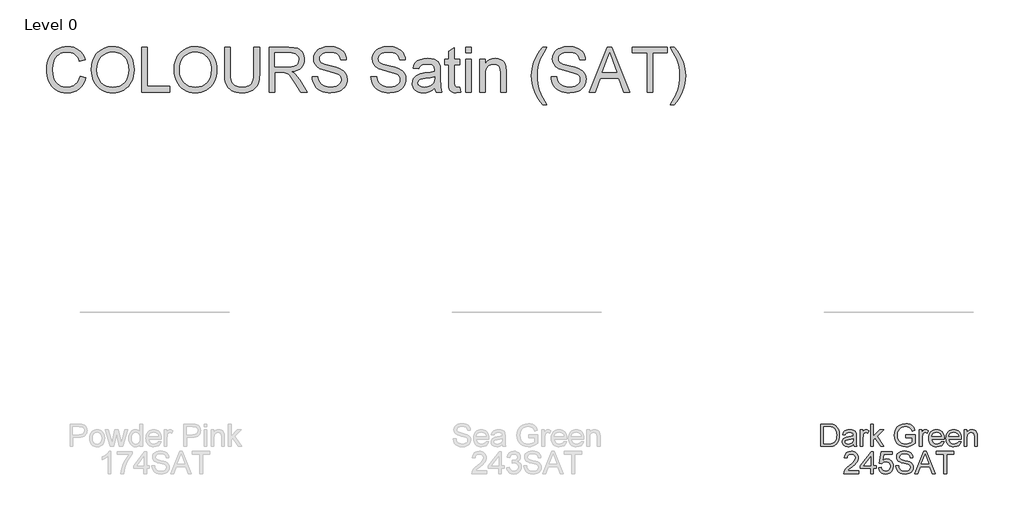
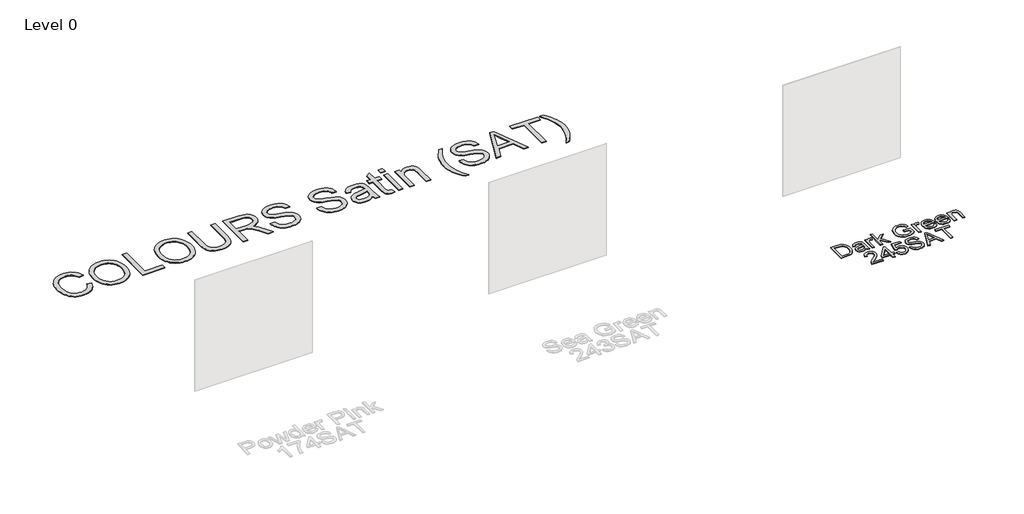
# One storey, part 32 of 37: 2 proxies.
"""IFC4 building model written with IfcOpenShell, lengths in millimetres."""

from ifc_helpers import new_model, si_unit, origin, origin_with_axes, place, context, project, spatial, polyline, outline, extrude, element, save

model = new_model("IFC4")

# Units and contexts
model_context = context("Model", 3, world=origin())
ifc_project = project(units=[si_unit("LENGTHUNIT", "METRE", prefix="MILLI")], contexts=[model_context])

# Site, building, storey
site = spatial("IfcSite", under=ifc_project)
building = spatial("IfcBuilding", under=site)
storey = spatial("IfcBuildingStorey", under=building, Name="Level 0", Elevation=0.0)

# Proxies
placement = place(None, origin())
element("IfcBuildingElementProxy", 1, Name="300mm Arial", ObjectType="300mm Arial", at=placement, inside=storey, context=model_context, shape_type="SweptSolid", body=[
    extrude(outline(polyline([(27501.6140214, -7002.860494), (27501.6140214, -6701.4915635), (27605.5774733, -6701.4915635), (27659.361821, -6705.8325711), (27683.3845152, -6714.2018865), (27703.6548132, -6727.390456), (27724.4953282, -6750.3462925), (27739.3393667, -6778.8939353), (27748.2237169, -6812.4815615), (27751.185167, -6850.557348), (27749.1802101, -6882.9033724), (27743.1653395, -6911.3682418), (27734.0050778, -6935.6024682), (27722.5639477, -6955.2565638), (27709.3937723, -6970.771987), (27695.0463745, -6982.590196), (27678.5744582, -6991.3549846), (27659.0307272, -6997.710146), (27610.5806684, -7002.860494), (27501.6140214, -7002.860494)]), holes=[polyline([(27539.2851377, -6965.1893777), (27605.9453553, -6965.1893777), (27633.5181108, -6963.8282143), (27654.4322022, -6959.7447241), (27670.2143398, -6953.1780305), (27682.3912339, -6944.3672567), (27695.4786358, -6928.0608873), (27705.3102822, -6906.9536578), (27711.4631085, -6880.9535978), (27713.5140507, -6849.9687368), (27709.4949399, -6808.9131061), (27697.4376075, -6778.5996297), (27679.6229218, -6757.7775088), (27658.3317514, -6745.1959446), (27636.6635019, -6740.670996), (27604.9152857, -6739.1626798), (27539.2851377, -6739.1626798), (27539.2851377, -6965.1893777)])]), origin_with_axes(), (0.0, 0.0, 1.0), 10.0),
    extrude(outline(polyline([(27939.5407485, -6974.6071568), (27921.5421219, -6990.0398064), (27903.0100664, -7000.1381672), (27883.5215177, -7005.7115794), (27862.6534115, -7007.5693835), (27831.1719098, -7003.0996173), (27807.9493588, -6989.6903186), (27793.6295522, -6969.3280501), (27788.8562833, -6943.9993748), (27790.658905, -6928.3827841), (27796.0667704, -6914.2009331), (27804.4084946, -6902.0608273), (27815.0126931, -6892.5694718), (27841.3898322, -6880.2086368), (27873.9841769, -6874.5432541), (27912.5014218, -6868.5835657), (27939.3200193, -6861.5938078), (27939.5407485, -6853.2060983), (27936.9471804, -6836.3938912), (27929.1664762, -6825.3942195), (27911.7656579, -6817.2272392), (27887.5222344, -6814.5049125), (27865.0814327, -6816.3167313), (27849.4096597, -6821.7521878), (27838.7226877, -6831.8045633), (27831.2362891, -6847.4671392), (27793.5651728, -6842.7582497), (27800.1042753, -6822.156858), (27809.8623452, -6805.9700502), (27823.7498905, -6793.590821), (27842.6774192, -6784.4121652), (27865.8263937, -6778.7283884), (27892.3782767, -6776.8337961), (27917.8449078, -6778.5076592), (27938.0324323, -6783.5292485), (27953.2535499, -6791.0800264), (27963.8209602, -6800.3414556), (27970.8291122, -6811.7917827), (27975.3724548, -6825.9092543), (27977.2118648, -6858.8714811), (27977.2118648, -6905.7396473), (27979.1248512, -6971.1858542), (27986.6296439, -7002.860494), (27948.9585276, -7002.860494), (27939.5407485, -6974.6071568)]), holes=[polyline([(27939.5407485, -6899.2649241), (27878.7666429, -6910.8164188), (27846.3562391, -6916.9232599), (27831.6777475, -6926.8560738), (27826.5273996, -6941.3506244), (27829.3324998, -6952.5526311), (27837.7478004, -6961.7312869), (27851.5893605, -6967.8565221), (27870.673239, -6969.8982672), (27890.9067487, -6967.64499), (27908.7858137, -6960.8851583), (27923.2803643, -6950.9247533), (27933.360331, -6939.069756), (27937.8300972, -6926.8560738), (27939.3200193, -6909.933502), (27939.5407485, -6899.2649241)])]), origin_with_axes(), (0.0, 0.0, 1.0), 10.0),
    extrude(outline(polyline([(28029.0096497, -7002.860494), (28029.0096497, -6781.5426857), (28061.9718765, -6781.5426857), (28061.9718765, -6814.2841833), (28074.1487705, -6795.3014723), (28085.3691714, -6784.1178596), (28096.6263604, -6778.654812), (28108.9136191, -6776.8337961), (28127.6756008, -6779.7400639), (28146.7318882, -6788.4588672), (28134.1503239, -6822.2304343), (28120.9065721, -6816.4362929), (28107.6628203, -6814.5049125), (28096.4148283, -6816.3627165), (28086.3624528, -6821.9361288), (28078.2414577, -6830.8020848), (28072.7876071, -6842.5375205), (28068.2074763, -6863.5803706), (28066.680766, -6886.5362071), (28066.680766, -7002.860494), (28029.0096497, -7002.860494)])), origin_with_axes(), (0.0, 0.0, 1.0), 10.0),
    extrude(outline(polyline([(28170.2763359, -7002.860494), (28170.2763359, -6701.4915635), (28207.9474522, -6701.4915635), (28207.9474522, -6863.4332178), (28292.4131583, -6781.5426857), (28344.5052488, -6781.5426857), (28259.0094731, -6864.4632874), (28349.2141383, -7002.860494), (28305.2154517, -7002.860494), (28232.0069347, -6890.6564855), (28207.9474522, -6913.9802039), (28207.9474522, -7002.860494), (28170.2763359, -7002.860494)])), origin_with_axes(), (0.0, 0.0, 1.0), 10.0),
    extrude(outline(polyline([(28645.8741792, -6885.1382555), (28645.8741792, -6847.4671392), (28768.3053072, -6847.4671392), (28768.3053072, -6960.1126061), (28738.5528509, -6980.8059684), (28707.8622954, -6995.6500069), (28676.3072173, -7004.5895394), (28643.9611929, -7007.5693835), (28601.7007487, -7002.8329028), (28563.5054005, -6988.6234608), (28531.7755784, -6965.437698), (28508.9117124, -6933.7722553), (28495.0885465, -6895.7884393), (28490.4808245, -6853.6475567), (28495.0701524, -6811.2031715), (28508.838136, -6771.7202364), (28531.2145584, -6738.6016598), (28561.6292023, -6715.2503502), (28598.6749192, -6701.399593), (28640.9445605, -6696.782674), (28671.9754068, -6699.4590155), (28699.8792561, -6707.4880401), (28723.3777186, -6720.2903335), (28741.1924042, -6737.2864817), (28754.3717767, -6759.295022), (28763.9642997, -6787.134492), (28729.2362393, -6796.9201531), (28721.4831263, -6777.0637224), (28712.0561502, -6762.0817281), (28699.5849505, -6750.7877509), (28682.6991669, -6741.9953712), (28662.5668248, -6736.3391855), (28640.3559493, -6734.4537903), (28614.3558893, -6736.4863383), (28592.1266197, -6742.5839824), (28573.7509141, -6751.9833674), (28559.3115458, -6763.9211381), (28539.9241646, -6792.9470275), (28531.0949967, -6821.3843058), (28528.1519408, -6852.1024524), (28531.692805, -6888.1272967), (28542.3153976, -6917.7693885), (28559.6978219, -6940.8171955), (28583.518181, -6957.0591856), (28611.3944392, -6966.6884968), (28640.9445605, -6969.8982672), (28667.036591, -6967.4794431), (28692.484828, -6960.2229707), (28714.5853389, -6950.2257775), (28730.6341909, -6939.5847908), (28730.6341909, -6885.1382555), (28645.8741792, -6885.1382555)])), origin_with_axes(), (0.0, 0.0, 1.0), 10.0),
    extrude(outline(polyline([(28824.8119817, -7002.860494), (28824.8119817, -6781.5426857), (28857.7742084, -6781.5426857), (28857.7742084, -6814.2841833), (28869.9511025, -6795.3014723), (28881.1715033, -6784.1178596), (28892.4286924, -6778.654812), (28904.715951, -6776.8337961), (28923.4779328, -6779.7400639), (28942.5342201, -6788.4588672), (28929.9526559, -6822.2304343), (28916.7089041, -6816.4362929), (28903.4651522, -6814.5049125), (28892.2171602, -6816.3627165), (28882.1647847, -6821.9361288), (28874.0437897, -6830.8020848), (28868.5899391, -6842.5375205), (28864.0098083, -6863.5803706), (28862.483098, -6886.5362071), (28862.483098, -7002.860494), (28824.8119817, -7002.860494)])), origin_with_axes(), (0.0, 0.0, 1.0), 10.0),
    extrude(outline(polyline([(29121.0305642, -6936.9360404), (29157.9659165, -6941.64493), (29144.6577853, -6969.4752029), (29123.4217972, -6990.2789297), (29094.7361986, -7003.2467701), (29059.0792362, -7007.5693835), (29035.7049339, -7005.7046817), (29014.8782145, -7000.1105761), (28996.5990779, -6990.7870668), (28980.867524, -6977.7341537), (28968.2169819, -6961.3151204), (28959.1808804, -6941.8932503), (28953.7592195, -6919.4685435), (28951.9519992, -6894.0409998), (28953.7776136, -6867.7512327), (28959.2544568, -6844.5792656), (28968.3825288, -6824.5250983), (28981.1618296, -6807.5887309), (28996.8519967, -6794.133447), (29014.7126676, -6784.5225298), (29034.7438422, -6778.7559796), (29056.9455206, -6776.8337961), (29078.4321284, -6778.751381), (29097.8631956, -6784.5041357), (29115.238722, -6794.0920602), (29130.5587079, -6807.5151545), (29143.0643964, -6824.4147337), (29151.9970311, -6844.4321128), (29157.356612, -6867.5672917), (29159.1431389, -6893.8202706), (29158.9224097, -6903.9738137), (28989.6231155, -6903.9738137), (28996.1438239, -6932.1719686), (29011.291365, -6952.902119), (29033.1527526, -6965.6492302), (29059.8150002, -6969.8982672), (29079.8645689, -6967.9300985), (29096.7503525, -6962.0255925), (29110.4723509, -6951.8168672), (29121.0305642, -6936.9360404)]), holes=[polyline([(28989.6231155, -6866.3026974), (29121.4720226, -6866.3026974), (29116.376857, -6846.4002814), (29106.3888608, -6832.1632482), (29084.4263057, -6818.9194964), (29056.7983678, -6814.5049125), (29031.4053131, -6818.0273826), (29010.4084482, -6828.5947929), (28995.8127301, -6845.0667092), (28989.6231155, -6866.3026974)])]), origin_with_axes(), (0.0, 0.0, 1.0), 10.0),
    extrude(outline(polyline([(29351.7661516, -6936.9360404), (29388.7015039, -6941.64493), (29375.3933727, -6969.4752029), (29354.1573845, -6990.2789297), (29325.471786, -7003.2467701), (29289.8148236, -7007.5693835), (29266.4405213, -7005.7046817), (29245.6138019, -7000.1105761), (29227.3346652, -6990.7870668), (29211.6031114, -6977.7341537), (29198.9525693, -6961.3151204), (29189.9164678, -6941.8932503), (29184.4948069, -6919.4685435), (29182.6875866, -6894.0409998), (29184.513201, -6867.7512327), (29189.9900442, -6844.5792656), (29199.1181162, -6824.5250983), (29211.897417, -6807.5887309), (29227.5875841, -6794.133447), (29245.448255, -6784.5225298), (29265.4794296, -6778.7559796), (29287.681108, -6776.8337961), (29309.1677158, -6778.751381), (29328.5987829, -6784.5041357), (29345.9743094, -6794.0920602), (29361.2942952, -6807.5151545), (29373.7999838, -6824.4147337), (29382.7326185, -6844.4321128), (29388.0921993, -6867.5672917), (29389.8787263, -6893.8202706), (29389.6579971, -6903.9738137), (29220.3587029, -6903.9738137), (29226.8794113, -6932.1719686), (29242.0269524, -6952.902119), (29263.88834, -6965.6492302), (29290.5505876, -6969.8982672), (29310.6001563, -6967.9300985), (29327.4859399, -6962.0255925), (29341.2079383, -6951.8168672), (29351.7661516, -6936.9360404)]), holes=[polyline([(29220.3587029, -6866.3026974), (29352.20761, -6866.3026974), (29347.1124443, -6846.4002814), (29337.1244482, -6832.1632482), (29315.1618931, -6818.9194964), (29287.5339552, -6814.5049125), (29262.1409005, -6818.0273826), (29241.1440356, -6828.5947929), (29226.5483175, -6845.0667092), (29220.3587029, -6866.3026974)])]), origin_with_axes(), (0.0, 0.0, 1.0), 10.0),
    extrude(outline(polyline([(29427.5498426, -7002.860494), (29427.5498426, -6781.5426857), (29465.2209589, -6781.5426857), (29465.2209589, -6812.4447733), (29478.3083609, -6796.8649708), (29494.0261191, -6785.7365404), (29512.3742336, -6779.0594822), (29533.3527044, -6776.8337961), (29551.9215481, -6778.6272209), (29568.9268933, -6784.0074951), (29583.1087442, -6792.303234), (29593.207105, -6802.8430532), (29604.5010823, -6830.5445674), (29606.487645, -6866.964885), (29606.487645, -7002.860494), (29568.8165287, -7002.860494), (29568.8165287, -6872.0416565), (29564.4755212, -6838.7115477), (29558.4698476, -6828.7879309), (29549.134842, -6821.0900002), (29537.1694801, -6816.1511844), (29523.2727377, -6814.5049125), (29501.2090151, -6818.2021265), (29482.4010481, -6829.2937687), (29474.884759, -6838.3482643), (29469.5159812, -6850.7228949), (29465.2209589, -6885.4325611), (29465.2209589, -7002.860494), (29427.5498426, -7002.860494)])), origin_with_axes(), (0.0, 0.0, 1.0), 10.0),
    extrude(outline(polyline([(28010.1740916, -7331.1138312), (28010.1740916, -7368.7849475), (27812.400731, -7368.7849475), (27816.4474329, -7342.8124787), (27825.7364533, -7322.5145896), (27839.329693, -7302.8237058), (27858.9929856, -7282.213117), (27886.4921648, -7259.156113), (27927.1431253, -7223.0484951), (27951.5337015, -7196.3954446), (27963.7289897, -7174.7639833), (27967.7940857, -7153.7211331), (27963.9589159, -7134.8579838), (27952.4534065, -7119.1770138), (27934.7674796, -7108.6096035), (27912.3910572, -7105.0871334), (27888.8925948, -7108.52683), (27870.6364508, -7118.84592), (27858.8550299, -7135.2350629), (27854.7807368, -7156.8849183), (27817.1096205, -7152.1760288), (27826.242291, -7115.7373171), (27834.7886496, -7101.2013798), (27845.9883571, -7089.1210548), (27859.5838961, -7079.6251008), (27875.3177492, -7072.8422765), (27913.2003976, -7067.4160171), (27933.3902214, -7068.9243332), (27951.3589576, -7073.4492818), (27967.1066062, -7080.9908627), (27980.6331673, -7091.549076), (27991.4971825, -7104.3421723), (27999.2571934, -7118.5884026), (28003.9131999, -7134.2877667), (28005.465202, -7151.4402648), (28003.7913389, -7169.4572855), (27998.7697497, -7187.1616065), (27989.8578084, -7205.1694302), (27976.512889, -7224.0969588), (27955.2401126, -7246.6941104), (27922.5446003, -7275.7108027), (27879.2081013, -7311.9471793), (27862.2119531, -7331.1138312), (28010.1740916, -7331.1138312)])), origin_with_axes(), (0.0, 0.0, 1.0), 10.0),
    extrude(outline(polyline([(28170.2763359, -7368.7849475), (28170.2763359, -7298.1516044), (28033.7185393, -7298.1516044), (28033.7185393, -7260.4804881), (28179.6941149, -7072.1249066), (28207.9474522, -7072.1249066), (28207.9474522, -7260.4804881), (28245.6185685, -7260.4804881), (28245.6185685, -7298.1516044), (28207.9474522, -7298.1516044), (28207.9474522, -7368.7849475), (28170.2763359, -7368.7849475)]), holes=[polyline([(28170.2763359, -7260.4804881), (28170.2763359, -7144.0826249), (28080.0716706, -7260.4804881), (28170.2763359, -7260.4804881)])]), origin_with_axes(), (0.0, 0.0, 1.0), 10.0),
    extrude(outline(polyline([(28278.5807952, -7288.7338254), (28316.2519115, -7284.0249358), (28323.1680931, -7306.6404815), (28335.2346225, -7322.8364863), (28352.3963176, -7332.5761621), (28374.597996, -7335.8227207), (28401.6005344, -7331.3069693), (28421.8340442, -7317.7597148), (28434.4707907, -7296.7444558), (28438.6830395, -7269.8246908), (28434.7375051, -7244.4776213), (28422.900902, -7225.0902402), (28403.0812595, -7212.7845875), (28375.1866072, -7208.6827032), (28356.9120691, -7210.3197781), (28342.1140158, -7215.2310027), (28320.9608011, -7232.2271509), (28283.2896848, -7227.5182614), (28316.2519115, -7072.1249066), (28462.2274872, -7072.1249066), (28462.2274872, -7109.7960229), (28346.7125407, -7109.7960229), (28330.5993094, -7192.790201), (28357.5098773, -7176.4562404), (28385.7080322, -7171.0115869), (28404.0538475, -7172.6992456), (28420.9051421, -7177.7622215), (28436.2619162, -7186.2005148), (28450.1241696, -7198.0141254), (28461.5997886, -7212.4810848), (28469.7966593, -7228.8794248), (28474.7147817, -7247.2091452), (28476.3541558, -7267.470246), (28470.4496498, -7305.1413624), (28463.0690173, -7321.9351754), (28452.7361318, -7337.3678251), (28437.0827529, -7353.1729553), (28418.8174118, -7364.4623341), (28397.9401086, -7371.2359613), (28374.4508432, -7373.4938371), (28337.4511115, -7367.6904986), (28321.7724407, -7360.4363255), (28307.9745667, -7350.2804832), (28296.4943491, -7337.7288093), (28287.7686481, -7323.2871418), (28278.5807952, -7288.7338254)])), origin_with_axes(), (0.0, 0.0, 1.0), 10.0),
    extrude(outline(polyline([(28509.3163826, -7265.1893777), (28546.9874989, -7265.1893777), (28551.3101124, -7286.0942721), (28559.1276048, -7302.8972822), (28571.3228929, -7316.2330045), (28588.7788936, -7326.7360355), (28610.1160493, -7333.5510494), (28633.9548026, -7335.8227207), (28654.9424704, -7334.1028724), (28673.3181761, -7328.9433274), (28688.2081998, -7320.7763471), (28698.7388219, -7310.0341929), (28705.0020129, -7297.700949), (28707.0897432, -7284.7606998), (28705.5262447, -7272.1515444), (28700.8357493, -7261.2530403), (28691.3076056, -7251.9548229), (28675.2311624, -7244.1465276), (28620.379957, -7229.7623415), (28584.3735067, -7220.2433949), (28561.3348967, -7211.1843008), (28542.582112, -7198.510766), (28529.292375, -7183.1516928), (28521.373715, -7165.4381747), (28518.7341617, -7145.7013056), (28521.9991144, -7123.637583), (28531.7939725, -7103.0637824), (28547.8612187, -7085.6261758), (28569.9433354, -7072.9710352), (28596.4492332, -7065.2731044), (28625.7878223, -7062.7071275), (28657.5728267, -7065.3926661), (28685.3847055, -7073.4492818), (28708.2301774, -7086.7114277), (28725.115961, -7105.013557), (28735.8029329, -7127.2152354), (28740.05197, -7152.1760288), (28702.3808537, -7152.1760288), (28695.4646722, -7129.6984389), (28681.043698, -7113.4748429), (28658.5109258, -7103.6523936), (28627.2593503, -7100.3782438), (28595.2720108, -7103.6156054), (28573.3278498, -7113.3276901), (28560.6359209, -7127.6199056), (28556.405278, -7144.5976597), (28559.4035163, -7159.0738162), (28568.398231, -7170.7172813), (28589.6618104, -7181.1283418), (28629.9081006, -7191.7601314), (28671.4419779, -7201.8584922), (28696.5683182, -7210.669266), (28718.0434296, -7224.3360821), (28733.0254239, -7241.2034716), (28741.8270006, -7261.0874934), (28744.7608595, -7283.8042066), (28741.3855422, -7307.0267576), (28731.2595903, -7328.869751), (28714.796871, -7347.668521), (28692.4112516, -7361.7584014), (28665.4914866, -7370.5599781), (28635.4263306, -7373.4938371), (28598.5185694, -7370.3300519), (28568.1407136, -7360.8386964), (28543.9432754, -7344.9829824), (28525.5767668, -7322.7261217), (28513.7861489, -7295.6132187), (28509.3163826, -7265.1893777)])), origin_with_axes(), (0.0, 0.0, 1.0), 10.0),
    extrude(outline(polyline([(28766.1715916, -7368.7849475), (28886.4690041, -7067.4160171), (28918.5483141, -7067.4160171), (29038.8457265, -7368.7849475), (28999.0408946, -7368.7849475), (28964.5335634, -7274.6071568), (28840.4101783, -7274.6071568), (28805.9764235, -7368.7849475), (28766.1715916, -7368.7849475)]), holes=[polyline([(28854.2425413, -7236.9360404), (28950.7747768, -7236.9360404), (28923.6250856, -7162.8446066), (28902.5086591, -7105.0871334), (28883.7466773, -7156.3698835), (28854.2425413, -7236.9360404)])]), origin_with_axes(), (0.0, 0.0, 1.0), 10.0),
    extrude(outline(polyline([(29154.4342494, -7368.7849475), (29154.4342494, -7105.0871334), (29055.5475691, -7105.0871334), (29055.5475691, -7067.4160171), (29290.992046, -7067.4160171), (29290.992046, -7105.0871334), (29192.1053657, -7105.0871334), (29192.1053657, -7368.7849475), (29154.4342494, -7368.7849475)])), origin_with_axes(), (0.0, 0.0, 1.0), 10.0),
])
element("IfcBuildingElementProxy", 2, Name="600mm Arial", ObjectType="600mm Arial", at=placement, inside=storey, context=model_context, shape_type="SweptSolid", body=[
    extrude(outline(polyline([(17546.3368732, -2025.6175733), (17621.6791058, -2045.0417427), (17606.770688, -2091.8961133), (17586.9142573, -2132.8367808), (17562.1098137, -2167.8637453), (17532.3573574, -2196.9770067), (17498.3282728, -2219.8638653), (17460.6939447, -2236.2116215), (17419.4543731, -2246.0202752), (17374.6095579, -2249.2898264), (17328.6656952, -2246.81582), (17287.2191899, -2239.3938007), (17250.270042, -2227.0237686), (17217.8182515, -2209.7057237), (17189.4177615, -2187.6971834), (17164.622515, -2161.255665), (17143.4325121, -2130.3811685), (17125.8477527, -2095.073694), (17112.0383823, -2056.8599518), (17102.1745463, -2017.266652), (17096.2562447, -1976.2937948), (17094.2834775, -1933.9413801), (17096.5137621, -1888.4987567), (17103.2046159, -1846.0543715), (17114.3560389, -1806.6082246), (17129.9680311, -1770.1603159), (17149.6911045, -1737.3130522), (17173.1757714, -1708.6688404), (17200.4220317, -1684.2276803), (17231.4298853, -1663.9895721), (17265.1462702, -1648.1200625), (17300.518124, -1636.7846985), (17337.5454468, -1629.9834802), (17376.2282386, -1627.7164074), (17419.3210158, -1630.6502663), (17458.8361406, -1639.451843), (17494.7736131, -1654.1211376), (17527.1334331, -1674.6581499), (17555.3821718, -1700.5202542), (17578.9864003, -1731.1648244), (17597.9461186, -1766.5918605), (17612.2613267, -1806.8013626), (17536.9190941, -1824.754004), (17525.0548998, -1795.1257078), (17510.7994725, -1769.810828), (17494.1528122, -1748.8093646), (17475.1149189, -1732.1213176), (17453.5754281, -1719.4063961), (17429.4239751, -1710.3243094), (17402.66056, -1704.8750573), (17373.2851827, -1703.05864), (17339.4860244, -1705.0727939), (17308.5747397, -1711.1152557), (17280.5513287, -1721.1860253), (17255.4157914, -1735.2851027), (17233.485426, -1752.7778916), (17215.0775306, -1773.0297954), (17200.1921054, -1796.0408142), (17188.8291503, -1821.810948), (17174.4265702, -1876.9564591), (17169.6257101, -1933.7942273), (17175.309487, -2003.3975008), (17182.414208, -2034.6674704), (17192.3608174, -2063.5829952), (17205.3102637, -2089.5692597), (17221.4234951, -2112.0514481), (17240.7005116, -2131.0295605), (17263.1413133, -2146.503597), (17287.6560498, -2158.5103456), (17313.1548706, -2167.0865946), (17339.6377757, -2172.232344), (17367.1047652, -2173.9475938), (17399.8600583, -2171.6115431), (17429.9941922, -2164.6033911), (17457.5071669, -2152.9231378), (17482.3989824, -2136.5707831), (17504.0810275, -2115.6199035), (17521.964691, -2090.1440753), (17536.0499729, -2060.1432986), (17546.3368732, -2025.6175733)])), origin_with_axes(), (0.0, 0.0, 1.0), 10.0),
    extrude(outline(polyline([(17697.0213384, -1946.449368), (17702.0429277, -1875.7516456), (17717.1076954, -1813.1657211), (17742.2156415, -1758.6915947), (17758.5358065, -1734.4964557), (17777.3667662, -1712.3292662), (17820.4549449, -1675.3111405), (17869.3740532, -1648.8696221), (17924.1240911, -1633.004711), (17984.7050587, -1627.7164074), (18025.2548516, -1630.1996108), (18063.7628994, -1637.6492212), (18100.2292022, -1650.0652386), (18134.6537599, -1667.4476628), (18166.0708823, -1689.2722622), (18193.5148791, -1715.0148048), (18216.9857504, -1744.6752907), (18236.4834962, -1778.2537198), (18251.8057813, -1814.986737), (18262.7502706, -1854.1109872), (18269.3169642, -1895.6264703), (18271.5058621, -1939.5331865), (18269.2020011, -1984.0193167), (18262.2904181, -2026.0958199), (18250.7711131, -2065.7626961), (18234.6440862, -2103.0199451), (18214.2910148, -2136.8834828), (18190.0935766, -2166.3692247), (18162.0517715, -2191.4771709), (18130.1655995, -2212.2073213), (18095.6904581, -2228.4309173), (18059.8817444, -2240.0192001), (18022.7394584, -2246.9721698), (17984.2636003, -2249.2898264), (17943.0056345, -2246.728448), (17903.9917489, -2239.0443128), (17867.2219435, -2226.2374209), (17832.6962182, -2208.3077721), (17801.3158841, -2185.9497439), (17773.9822518, -2159.8577134), (17750.6953215, -2130.0316806), (17731.4550932, -2096.4716456), (17716.3903255, -2060.5249762), (17705.6297771, -2023.5390401), (17699.1734481, -1985.5138373), (17697.0213384, -1946.449368)]), holes=[polyline([(17772.363571, -1947.185132), (17776.129763, -1997.1343099), (17787.4283387, -2041.4732873), (17806.2592984, -2080.2020644), (17832.6226418, -2113.320641), (17864.6697622, -2139.8449328), (17900.5520523, -2158.7908556), (17940.2695122, -2170.1584092), (17983.8221419, -2173.9475938), (18028.1197326, -2170.121621), (18068.3062421, -2158.6437028), (18104.3816702, -2139.513839), (18136.3460171, -2112.7320298), (18162.5162225, -2078.9144774), (18181.2092264, -2038.6773842), (18192.4250287, -1992.0207501), (18196.1636295, -1938.9445753), (18194.5633428, -1904.4648353), (18189.7624828, -1872.2475695), (18181.7610494, -1842.2927781), (18170.5590426, -1814.6004609), (18156.2806227, -1789.5339015), (18139.0499497, -1767.4563832), (18118.8670238, -1748.3679062), (18095.7318448, -1732.2684704), (18070.3617827, -1719.4891696), (18043.4742074, -1710.3610976), (18015.0691188, -1704.8842544), (17985.146517, -1703.05864), (17943.1068021, -1706.5765115), (17904.1021135, -1717.1301263), (17868.1324514, -1734.7194842), (17835.1978158, -1759.3445852), (17807.7078337, -1792.1918489), (17788.0721322, -1834.4476945), (17776.2907113, -1886.1121222), (17772.363571, -1947.185132)])]), origin_with_axes(), (0.0, 0.0, 1.0), 10.0),
    extrude(outline(polyline([(18375.1014319, -2239.8720473), (18375.1014319, -1637.1341864), (18450.4436645, -1637.1341864), (18450.4436645, -2164.5298147), (18751.812595, -2164.5298147), (18751.812595, -2239.8720473), (18375.1014319, -2239.8720473)])), origin_with_axes(), (0.0, 0.0, 1.0), 10.0),
    extrude(outline(polyline([(18808.3192695, -1946.449368), (18813.3408587, -1875.7516456), (18828.4056264, -1813.1657211), (18853.5135726, -1758.6915947), (18869.8337376, -1734.4964557), (18888.6646972, -1712.3292662), (18931.7528759, -1675.3111405), (18980.6719842, -1648.8696221), (19035.4220221, -1633.004711), (19096.0029897, -1627.7164074), (19136.5527826, -1630.1996108), (19175.0608304, -1637.6492212), (19211.5271332, -1650.0652386), (19245.9516909, -1667.4476628), (19277.3688133, -1689.2722622), (19304.8128101, -1715.0148048), (19328.2836814, -1744.6752907), (19347.7814272, -1778.2537198), (19363.1037123, -1814.986737), (19374.0482016, -1854.1109872), (19380.6148953, -1895.6264703), (19382.8037931, -1939.5331865), (19380.4999321, -1984.0193167), (19373.5883491, -2026.0958199), (19362.0690442, -2065.7626961), (19345.9420172, -2103.0199451), (19325.5889458, -2136.8834828), (19301.3915076, -2166.3692247), (19273.3497025, -2191.4771709), (19241.4635306, -2212.2073213), (19206.9883891, -2228.4309173), (19171.1796754, -2240.0192001), (19134.0373895, -2246.9721698), (19095.5615313, -2249.2898264), (19054.3035655, -2246.728448), (19015.2896799, -2239.0443128), (18978.5198745, -2226.2374209), (18943.9941493, -2208.3077721), (18912.6138151, -2185.9497439), (18885.2801828, -2159.8577134), (18861.9932526, -2130.0316806), (18842.7530242, -2096.4716456), (18827.6882565, -2060.5249762), (18816.9277081, -2023.5390401), (18810.4713791, -1985.5138373), (18808.3192695, -1946.449368)]), holes=[polyline([(18883.6615021, -1947.185132), (18887.427694, -1997.1343099), (18898.7262698, -2041.4732873), (18917.5572294, -2080.2020644), (18943.9205729, -2113.320641), (18975.9676932, -2139.8449328), (19011.8499833, -2158.7908556), (19051.5674432, -2170.1584092), (19095.1200729, -2173.9475938), (19139.4176636, -2170.121621), (19179.6041731, -2158.6437028), (19215.6796012, -2139.513839), (19247.6439481, -2112.7320298), (19273.8141535, -2078.9144774), (19292.5071574, -2038.6773842), (19303.7229597, -1992.0207501), (19307.4615605, -1938.9445753), (19305.8612738, -1904.4648353), (19301.0604138, -1872.2475695), (19293.0589804, -1842.2927781), (19281.8569736, -1814.6004609), (19267.5785537, -1789.5339015), (19250.3478808, -1767.4563832), (19230.1649548, -1748.3679062), (19207.0297758, -1732.2684704), (19181.6597137, -1719.4891696), (19154.7721384, -1710.3610976), (19126.3670499, -1704.8842544), (19096.4444481, -1703.05864), (19054.4047331, -1706.5765115), (19015.4000445, -1717.1301263), (18979.4303825, -1734.7194842), (18946.4957468, -1759.3445852), (18919.0057648, -1792.1918489), (18899.3700633, -1834.4476945), (18887.5886424, -1886.1121222), (18883.6615021, -1947.185132)])]), origin_with_axes(), (0.0, 0.0, 1.0), 10.0),
    extrude(outline(polyline([(19881.9460842, -1637.1341864), (19957.2883168, -1637.1341864), (19957.2883168, -1984.8562483), (19952.1747571, -2066.2869279), (19945.7828074, -2099.9803201), (19936.8340779, -2128.992414), (19924.5560163, -2154.4222569), (19908.1760704, -2177.3688963), (19887.6942404, -2197.8323323), (19863.110526, -2215.8125648), (19834.3973363, -2230.4588668), (19801.52708, -2240.920511), (19764.4997572, -2247.1974976), (19723.3153679, -2249.2898264), (19683.1472525, -2247.4688105), (19646.814307, -2242.0057629), (19614.3165312, -2232.9006835), (19585.6539253, -2220.1535724), (19560.8218906, -2203.952969), (19539.8158287, -2184.487413), (19522.6357395, -2161.7569042), (19509.2816231, -2135.7614427), (19499.2706343, -2105.6089147), (19492.119928, -2070.4072063), (19487.8295042, -2030.1563175), (19486.399363, -1984.8562483), (19486.399363, -1637.1341864), (19561.7415956, -1637.1341864), (19561.7415956, -1982.2074979), (19565.4572037, -2049.9161791), (19576.6040282, -2097.0602568), (19585.3688167, -2114.4380825), (19596.8007497, -2129.7097839), (19610.8998272, -2142.8753608), (19627.6660491, -2153.9348133), (19667.9123394, -2168.9443987), (19716.2520336, -2173.9475938), (19757.7767138, -2171.4735874), (19792.8818531, -2164.0515681), (19821.5674517, -2151.681536), (19843.8335095, -2134.3634911), (19860.5077609, -2110.009703), (19872.4179405, -2076.5324415), (19879.5640483, -2033.9317064), (19881.9460842, -1982.2074979), (19881.9460842, -1637.1341864)])), origin_with_axes(), (0.0, 0.0, 1.0), 10.0),
    extrude(outline(polyline([(20089.1372239, -2239.8720473), (20089.1372239, -1637.1341864), (20348.8619125, -1637.1341864), (20418.667521, -1641.1992825), (20469.4536305, -1653.3945706), (20489.0525438, -1663.0882612), (20506.5729238, -1675.9089487), (20522.0147705, -1691.8566332), (20535.378084, -1710.9313147), (20546.161625, -1732.107522), (20553.8641543, -1754.3597842), (20558.4856718, -1777.6881012), (20560.0261777, -1802.0924731), (20557.4739963, -1833.049743), (20549.8174523, -1861.4686271), (20537.0565456, -1887.3491255), (20519.1912762, -1910.691238), (20495.9917179, -1930.7500038), (20467.2279444, -1946.7804618), (20432.8999557, -1958.7826119), (20393.0077519, -1966.7564541), (20417.8397866, -1982.9800501), (20435.8292161, -1998.9829169), (20466.6945155, -2035.5871754), (20496.8976273, -2076.5324415), (20597.4029884, -2239.8720473), (20509.8470735, -2239.8720473), (20431.4146322, -2114.9393218), (20374.7608049, -2032.2394493), (20353.6995607, -2008.1247845), (20334.955973, -1993.1703814), (20299.1242667, -1978.8229836), (20255.4198857, -1976.1742332), (20164.4794565, -1976.1742332), (20164.4794565, -2239.8720473), (20089.1372239, -2239.8720473)]), holes=[polyline([(20164.4794565, -1900.8320006), (20333.1165631, -1900.8320006), (20381.5482277, -1898.1648561), (20419.1273735, -1890.1634227), (20447.417499, -1876.2942715), (20467.9821025, -1856.0239736), (20480.5084844, -1831.5046386), (20484.6839451, -1804.8883762), (20482.6927838, -1785.6205567), (20476.7192999, -1768.1369649), (20466.7634934, -1752.4376008), (20452.8253643, -1738.5224643), (20434.5830159, -1727.1273195), (20411.7145513, -1718.9879304), (20384.2199707, -1714.1042969), (20352.099274, -1712.476419), (20164.4794565, -1712.476419), (20164.4794565, -1900.8320006)])]), origin_with_axes(), (0.0, 0.0, 1.0), 10.0),
    extrude(outline(polyline([(20663.6217475, -2032.6809076), (20738.9639801, -2032.6809076), (20747.609207, -2074.4906964), (20763.2441918, -2108.0967167), (20787.6347681, -2134.7681613), (20822.5467694, -2155.7742232), (20865.2210809, -2169.4042512), (20912.8985875, -2173.9475938), (20954.8739231, -2170.5078971), (20991.6253344, -2160.1888072), (21021.4053819, -2143.8548466), (21042.4666262, -2122.3705381), (21054.9930081, -2097.7040503), (21059.1684687, -2071.8235519), (21056.0414718, -2046.6052412), (21046.6604809, -2024.8082329), (21027.6041936, -2006.2117981), (20995.4513072, -1990.5952074), (20885.7488962, -1961.8268354), (20813.7359957, -1942.7889421), (20767.6587758, -1924.6707539), (20730.1532064, -1899.3236844), (20703.5737322, -1868.6055378), (20687.7364123, -1833.1785017), (20682.4573057, -1793.7047636), (20684.089782, -1771.2685604), (20688.9872111, -1749.5773183), (20697.1495929, -1728.6310372), (20708.5769273, -1708.4297171), (20723.1404558, -1689.796494), (20740.7114196, -1673.554504), (20761.2898187, -1659.7037468), (20784.8756531, -1648.2442227), (20837.8874486, -1632.8483612), (20896.5646269, -1627.7164074), (20960.1346356, -1633.0874845), (21015.7583933, -1649.2007159), (21040.0937873, -1661.202866), (21061.4493371, -1675.7250077), (21079.8250428, -1692.7671412), (21095.2209043, -1712.3292662), (21107.51736, -1733.8411659), (21116.5948482, -1756.7326231), (21122.453369, -1781.0036377), (21125.0929223, -1806.6542098), (21049.7506897, -1806.6542098), (21044.7107063, -1782.6131214), (21035.9183267, -1761.69903), (21023.3735506, -1743.9119355), (21007.0763782, -1729.251838), (20986.7233068, -1717.7923139), (20962.0108338, -1709.6069395), (20932.9389592, -1704.6957148), (20899.5076828, -1703.05864), (20865.0095487, -1704.6773207), (20835.5330039, -1709.5333631), (20811.0780482, -1717.626767), (20791.6446819, -1728.9575324), (20776.8374315, -1742.5783633), (20766.2608242, -1757.5419635), (20759.9148598, -1773.8483329), (20757.7995383, -1791.4974716), (20759.2986574, -1806.681801), (20763.7960148, -1820.4497846), (20771.2916105, -1832.8014226), (20781.7854444, -1843.7367149), (20798.303346, -1854.0925931), (20824.312603, -1864.5588358), (20904.8051836, -1885.8224152), (20987.8729381, -1906.0191367), (21038.1256186, -1923.6406843), (21081.0758416, -1950.9743165), (21097.6811151, -1967.0415627), (21111.0398301, -1984.7090955), (21121.3083363, -2003.8849445), (21128.6429835, -2024.4771392), (21134.5107014, -2069.9105656), (21132.8230427, -2093.4780059), (21127.7600667, -2116.3556674), (21119.3217735, -2138.5435503), (21107.5081629, -2160.0416544), (21092.5261687, -2180.0176467), (21074.5827243, -2197.6391943), (21053.67783, -2212.9062971), (21029.8114855, -2225.8189551), (21003.6780683, -2236.0874613), (20975.9719555, -2243.4221086), (20915.8416434, -2249.2898264), (20877.3014059, -2247.7079338), (20842.0261211, -2242.9622561), (20810.015789, -2235.0527932), (20781.2704096, -2223.9795451), (20755.615239, -2209.7241178), (20732.8755331, -2192.2681172), (20713.0512921, -2171.6115431), (20696.1425159, -2147.7543957), (20682.521685, -2121.4692272), (20672.56128, -2093.5285896), (20666.2613008, -2063.9324831), (20663.6217475, -2032.6809076)])), origin_with_axes(), (0.0, 0.0, 1.0), 10.0),
    extrude(outline(polyline([(21454.71519, -2032.6809076), (21530.0574226, -2032.6809076), (21538.7026495, -2074.4906964), (21554.3376343, -2108.0967167), (21578.7282105, -2134.7681613), (21613.6402119, -2155.7742232), (21656.3145233, -2169.4042512), (21703.9920299, -2173.9475938), (21745.9673655, -2170.5078971), (21782.7187769, -2160.1888072), (21812.4988244, -2143.8548466), (21833.5600686, -2122.3705381), (21846.0864505, -2097.7040503), (21850.2619112, -2071.8235519), (21847.1349142, -2046.6052412), (21837.7539233, -2024.8082329), (21818.697636, -2006.2117981), (21786.5447496, -1990.5952074), (21676.8423386, -1961.8268354), (21604.8294381, -1942.7889421), (21558.7522182, -1924.6707539), (21521.2466488, -1899.3236844), (21494.6671746, -1868.6055378), (21478.8298547, -1833.1785017), (21473.5507481, -1793.7047636), (21475.1832245, -1771.2685604), (21480.0806535, -1749.5773183), (21488.2430353, -1728.6310372), (21499.6703698, -1708.4297171), (21514.2338983, -1689.796494), (21531.8048621, -1673.554504), (21552.3832612, -1659.7037468), (21575.9690956, -1648.2442227), (21628.9808911, -1632.8483612), (21687.6580693, -1627.7164074), (21751.2280781, -1633.0874845), (21806.8518357, -1649.2007159), (21831.1872297, -1661.202866), (21852.5427795, -1675.7250077), (21870.9184852, -1692.7671412), (21886.3143467, -1712.3292662), (21898.6108024, -1733.8411659), (21907.6882906, -1756.7326231), (21913.5468114, -1781.0036377), (21916.1863647, -1806.6542098), (21840.8441321, -1806.6542098), (21835.8041488, -1782.6131214), (21827.0117691, -1761.69903), (21814.466993, -1743.9119355), (21798.1698207, -1729.251838), (21777.8167493, -1717.7923139), (21753.1042762, -1709.6069395), (21724.0324016, -1704.6957148), (21690.6011253, -1703.05864), (21656.1029912, -1704.6773207), (21626.6264463, -1709.5333631), (21602.1714907, -1717.626767), (21582.7381243, -1728.9575324), (21567.930874, -1742.5783633), (21557.3542666, -1757.5419635), (21551.0083022, -1773.8483329), (21548.8929807, -1791.4974716), (21550.3920999, -1806.681801), (21554.8894572, -1820.4497846), (21562.3850529, -1832.8014226), (21572.8788868, -1843.7367149), (21589.3967884, -1854.0925931), (21615.4060455, -1864.5588358), (21695.898626, -1885.8224152), (21778.9663805, -1906.0191367), (21829.2190611, -1923.6406843), (21872.169284, -1950.9743165), (21888.7745575, -1967.0415627), (21902.1332725, -1984.7090955), (21912.4017787, -2003.8849445), (21919.736426, -2024.4771392), (21925.6041438, -2069.9105656), (21923.9164851, -2093.4780059), (21918.8535092, -2116.3556674), (21910.4152159, -2138.5435503), (21898.6016053, -2160.0416544), (21883.6196111, -2180.0176467), (21865.6761668, -2197.6391943), (21844.7712724, -2212.9062971), (21820.904928, -2225.8189551), (21794.7715107, -2236.0874613), (21767.065398, -2243.4221086), (21706.9350859, -2249.2898264), (21668.3948483, -2247.7079338), (21633.1195635, -2242.9622561), (21601.1092314, -2235.0527932), (21572.363852, -2223.9795451), (21546.7086814, -2209.7241178), (21523.9689756, -2192.2681172), (21504.1447345, -2171.6115431), (21487.2359583, -2147.7543957), (21473.6151275, -2121.4692272), (21463.6547224, -2093.5285896), (21457.3547433, -2063.9324831), (21454.71519, -2032.6809076)])), origin_with_axes(), (0.0, 0.0, 1.0), 10.0),
    extrude(outline(polyline([(22311.7330859, -2183.3653729), (22275.7358327, -2214.2306723), (22238.6717217, -2234.4273938), (22199.6946243, -2245.5742183), (22157.9584119, -2249.2898264), (22124.4121725, -2247.0549433), (22094.9954085, -2240.3502939), (22069.7081198, -2229.1758783), (22048.5503066, -2213.5316965), (22031.8438655, -2194.4110298), (22019.9106933, -2172.8071596), (22012.7507899, -2148.720086), (22010.3641555, -2122.1498089), (22013.969399, -2090.9166275), (22024.7851297, -2062.5529257), (22041.4685782, -2038.272714), (22062.6769752, -2019.290003), (22087.6009804, -2004.9426052), (22115.4312533, -1994.5683329), (22180.6199428, -1983.2375675), (22257.6544326, -1971.3181908), (22311.2916275, -1957.338675), (22311.7330859, -1940.5632561), (22306.5459498, -1906.9388417), (22300.0620296, -1894.4860362), (22290.9845414, -1884.9394984), (22275.2943743, -1875.4113547), (22256.1829047, -1868.6055378), (22207.6960577, -1863.1608843), (22162.8144543, -1866.7845219), (22131.4709083, -1877.6554349), (22110.0969644, -1897.7601859), (22095.1241672, -1929.0853378), (22019.7819346, -1919.6675587), (22032.8601395, -1878.4647753), (22052.3762793, -1846.0911597), (22080.15137, -1821.3327014), (22118.0064273, -1802.9753899), (22164.3043764, -1791.6078362), (22217.4081424, -1787.8186517), (22268.3414046, -1791.1663778), (22308.7164536, -1801.2095563), (22339.1586887, -1816.3111122), (22360.2935093, -1834.8339706), (22374.3098133, -1857.7346248), (22383.3964986, -1885.969568), (22387.0753185, -1951.8940215), (22387.0753185, -2045.6303539), (22390.9012913, -2176.5227678), (22396.566674, -2208.8779892), (22405.9108767, -2239.8720473), (22330.5686441, -2239.8720473), (22318.5021146, -2213.6788493), (22311.7330859, -2183.3653729)]), holes=[polyline([(22311.7330859, -2032.6809076), (22261.1125234, -2045.2256837), (22190.1848747, -2055.7838969), (22125.3640672, -2067.9975792), (22108.4966777, -2076.3485005), (22096.007084, -2087.8632069), (22088.2815621, -2101.6587817), (22085.7063881, -2116.8523081), (22091.3165885, -2139.2563216), (22108.1471898, -2157.6136332), (22135.8303099, -2169.8641036), (22173.9980669, -2173.9475938), (22214.4650864, -2169.4410394), (22250.2232163, -2155.921376), (22279.2123176, -2136.000566), (22299.3722509, -2112.2905714), (22308.3117834, -2087.8632069), (22311.2916275, -2054.0180634), (22311.7330859, -2032.6809076)])]), origin_with_axes(), (0.0, 0.0, 1.0), 10.0),
    extrude(outline(polyline([(22650.7731327, -2177.0378026), (22660.1909118, -2242.0793393), (22603.8313901, -2249.2898264), (22567.66859, -2246.1628294), (22540.7028397, -2236.7818386), (22521.6465524, -2222.3240762), (22509.2121409, -2203.9667646), (22502.3695358, -2172.4392776), (22500.0886675, -2118.4709889), (22500.0886675, -1872.5786633), (22443.581993, -1872.5786633), (22443.581993, -1797.2364307), (22500.0886675, -1797.2364307), (22500.0886675, -1689.6677353), (22575.4309001, -1645.3747431), (22575.4309001, -1797.2364307), (22650.7731327, -1797.2364307), (22650.7731327, -1872.5786633), (22575.4309001, -1872.5786633), (22575.4309001, -2116.2636969), (22579.4040256, -2155.1120356), (22592.2798954, -2168.8708223), (22603.1508084, -2172.6784009), (22617.9580587, -2173.9475938), (22650.7731327, -2177.0378026)])), origin_with_axes(), (0.0, 0.0, 1.0), 10.0),
    extrude(outline(polyline([(22726.1153653, -1712.476419), (22726.1153653, -1637.1341864), (22801.4575979, -1637.1341864), (22801.4575979, -1712.476419), (22726.1153653, -1712.476419)])), origin_with_axes(), (0.0, 0.0, 1.0), 10.0),
    extrude(outline(polyline([(22726.1153653, -2239.8720473), (22726.1153653, -1797.2364307), (22801.4575979, -1797.2364307), (22801.4575979, -2239.8720473), (22726.1153653, -2239.8720473)])), origin_with_axes(), (0.0, 0.0, 1.0), 10.0),
    extrude(outline(polyline([(22914.4709468, -2239.8720473), (22914.4709468, -1797.2364307), (22989.8131794, -1797.2364307), (22989.8131794, -1859.0406059), (23015.9879834, -1827.8810009), (23047.4234999, -1805.6241402), (23084.1197289, -1792.2700238), (23126.0766704, -1787.8186517), (23163.2143579, -1791.4055011), (23197.2250483, -1802.1660495), (23225.5887501, -1818.7575275), (23245.7854717, -1839.8371658), (23259.489076, -1865.3497821), (23268.3734262, -1895.2401942), (23272.3465517, -1968.0808293), (23272.3465517, -2239.8720473), (23197.0043191, -2239.8720473), (23197.0043191, -1978.2343724), (23194.8338153, -1939.2756691), (23188.322304, -1911.5741548), (23176.3109569, -1891.7269212), (23157.6409456, -1876.3310597), (23133.7102218, -1866.4534281), (23105.9167371, -1863.1608843), (23083.0390755, -1865.0094913), (23061.7892918, -1870.5553124), (23042.1673859, -1879.7983475), (23024.1733578, -1892.7385967), (23009.1407798, -1910.8475879), (22998.403224, -1935.5968491), (22991.9606906, -1966.9863804), (22989.8131794, -2005.0161816), (22989.8131794, -2239.8720473), (22914.4709468, -2239.8720473)])), origin_with_axes(), (0.0, 0.0, 1.0), 10.0),
    extrude(outline(polyline([(23762.0710637, -2409.3920707), (23731.6564198, -2370.0378943), (23703.6881911, -2327.4647504), (23678.1663777, -2281.672639), (23655.0909795, -2232.6615602), (23635.9703128, -2181.5811452), (23622.3126937, -2129.5810252), (23614.1181223, -2076.6612002), (23611.3865985, -2022.8216702), (23613.4283436, -1975.5028485), (23619.5535788, -1929.1957024), (23629.7623041, -1883.9002317), (23644.0545197, -1839.6164366), (23665.7779515, -1788.8303271), (23692.6885194, -1738.1545823), (23724.7862235, -1687.5892021), (23762.0710637, -1637.1341864), (23818.5777382, -1637.1341864), (23774.2479578, -1708.7608109), (23748.0915479, -1756.4751057), (23724.0320654, -1813.1289329), (23705.711542, -1872.137205), (23691.4745088, -1947.5162258), (23686.7288311, -2023.2631286), (23688.7889703, -2071.561436), (23694.9693878, -2119.8505464), (23705.2700837, -2168.1304597), (23719.6910579, -2216.401176), (23738.2323104, -2264.6626953), (23760.8938413, -2312.9150175), (23787.6756506, -2361.1581426), (23818.5777382, -2409.3920707), (23762.0710637, -2409.3920707)])), origin_with_axes(), (0.0, 0.0, 1.0), 10.0),
    extrude(outline(polyline([(23875.0844126, -2032.6809076), (23950.4266452, -2032.6809076), (23959.0718721, -2074.4906964), (23974.7068569, -2108.0967167), (23999.0974332, -2134.7681613), (24034.0094345, -2155.7742232), (24076.683746, -2169.4042512), (24124.3612526, -2173.9475938), (24166.3365882, -2170.5078971), (24203.0879995, -2160.1888072), (24232.868047, -2143.8548466), (24253.9292913, -2122.3705381), (24266.4556732, -2097.7040503), (24270.6311338, -2071.8235519), (24267.5041369, -2046.6052412), (24258.123146, -2024.8082329), (24239.0668587, -2006.2117981), (24206.9139723, -1990.5952074), (24097.2115613, -1961.8268354), (24025.1986608, -1942.7889421), (23979.1214409, -1924.6707539), (23941.6158715, -1899.3236844), (23915.0363973, -1868.6055378), (23899.1990774, -1833.1785017), (23893.9199708, -1793.7047636), (23895.5524471, -1771.2685604), (23900.4498762, -1749.5773183), (23908.612258, -1728.6310372), (23920.0395924, -1708.4297171), (23934.6031209, -1689.796494), (23952.1740847, -1673.554504), (23972.7524838, -1659.7037468), (23996.3383182, -1648.2442227), (24049.3501137, -1632.8483612), (24108.027292, -1627.7164074), (24171.5973007, -1633.0874845), (24227.2210584, -1649.2007159), (24251.5564524, -1661.202866), (24272.9120022, -1675.7250077), (24291.2877079, -1692.7671412), (24306.6835694, -1712.3292662), (24318.9800251, -1733.8411659), (24328.0575133, -1756.7326231), (24333.9160341, -1781.0036377), (24336.5555874, -1806.6542098), (24261.2133548, -1806.6542098), (24256.1733714, -1782.6131214), (24247.3809917, -1761.69903), (24234.8362157, -1743.9119355), (24218.5390433, -1729.251838), (24198.1859719, -1717.7923139), (24173.4734989, -1709.6069395), (24144.4016242, -1704.6957148), (24110.9703479, -1703.05864), (24076.4722138, -1704.6773207), (24046.995669, -1709.5333631), (24022.5407133, -1717.626767), (24003.1073469, -1728.9575324), (23988.3000966, -1742.5783633), (23977.7234893, -1757.5419635), (23971.3775249, -1773.8483329), (23969.2622034, -1791.4974716), (23970.7613225, -1806.681801), (23975.2586799, -1820.4497846), (23982.7542756, -1832.8014226), (23993.2481095, -1843.7367149), (24009.7660111, -1854.0925931), (24035.7752681, -1864.5588358), (24116.2678487, -1885.8224152), (24199.3356032, -1906.0191367), (24249.5882837, -1923.6406843), (24292.5385067, -1950.9743165), (24309.1437802, -1967.0415627), (24322.5024952, -1984.7090955), (24332.7710014, -2003.8849445), (24340.1056486, -2024.4771392), (24345.9733665, -2069.9105656), (24344.2857078, -2093.4780059), (24339.2227318, -2116.3556674), (24330.7844386, -2138.5435503), (24318.970828, -2160.0416544), (24303.9888338, -2180.0176467), (24286.0453894, -2197.6391943), (24265.1404951, -2212.9062971), (24241.2741506, -2225.8189551), (24215.1407334, -2236.0874613), (24187.4346206, -2243.4221086), (24127.3043085, -2249.2898264), (24088.764071, -2247.7079338), (24053.4887862, -2242.9622561), (24021.4784541, -2235.0527932), (23992.7330747, -2223.9795451), (23967.077904, -2209.7241178), (23944.3381982, -2192.2681172), (23924.5139572, -2171.6115431), (23907.605181, -2147.7543957), (23893.9843501, -2121.4692272), (23884.0239451, -2093.5285896), (23877.7239659, -2063.9324831), (23875.0844126, -2032.6809076)])), origin_with_axes(), (0.0, 0.0, 1.0), 10.0),
    extrude(outline(polyline([(24388.7948307, -2239.8720473), (24629.3896555, -1637.1341864), (24693.5482755, -1637.1341864), (24934.1431003, -2239.8720473), (24854.5334366, -2239.8720473), (24785.5187743, -2051.5164658), (24537.2720039, -2051.5164658), (24468.4044944, -2239.8720473), (24388.7948307, -2239.8720473)]), holes=[polyline([(24564.93673, -1976.1742332), (24758.0012011, -1976.1742332), (24703.7018186, -1827.9913655), (24661.4689655, -1712.476419), (24623.945002, -1815.0419193), (24564.93673, -1976.1742332)])]), origin_with_axes(), (0.0, 0.0, 1.0), 10.0),
    extrude(outline(polyline([(25165.3201461, -2239.8720473), (25165.3201461, -1712.476419), (24967.5467855, -1712.476419), (24967.5467855, -1637.1341864), (25438.4357393, -1637.1341864), (25438.4357393, -1712.476419), (25240.6623787, -1712.476419), (25240.6623787, -2239.8720473), (25165.3201461, -2239.8720473)])), origin_with_axes(), (0.0, 0.0, 1.0), 10.0),
    extrude(outline(polyline([(25532.6135301, -2409.3920707), (25476.1068556, -2409.3920707), (25507.0089432, -2361.1581426), (25533.7907525, -2312.9150175), (25556.4522834, -2264.6626953), (25574.9935359, -2216.401176), (25589.4145102, -2168.1304597), (25599.715206, -2119.8505464), (25605.8956235, -2071.561436), (25607.9557627, -2023.2631286), (25603.210085, -1948.0680488), (25588.9730518, -1873.4615801), (25570.9836222, -1814.3429435), (25547.0345043, -1757.6523281), (25520.7677299, -1709.4229985), (25476.1068556, -1637.1341864), (25532.6135301, -1637.1341864), (25569.8983703, -1687.5892021), (25601.9960744, -1738.1545823), (25628.9066423, -1788.8303271), (25650.6300741, -1839.6164366), (25664.9222897, -1883.9002317), (25675.131015, -1929.1957024), (25681.2562502, -1975.5028485), (25683.2979953, -2022.8216702), (25680.5526759, -2076.6612002), (25672.3167178, -2129.5810252), (25658.5901208, -2181.5811452), (25639.3728851, -2232.6615602), (25616.2285091, -2281.672639), (25590.7204912, -2327.4647504), (25562.8488316, -2370.0378943), (25532.6135301, -2409.3920707)])), origin_with_axes(), (0.0, 0.0, 1.0), 10.0),
])

save(model, "model.ifc")
